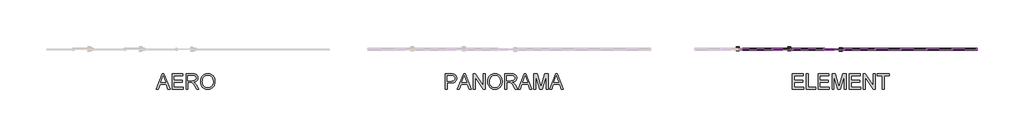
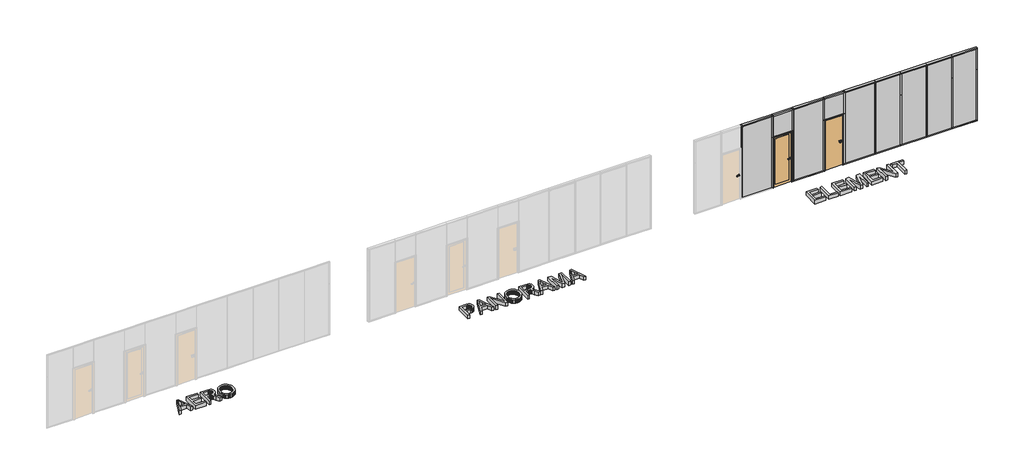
# One storey, part 2 of 2: 36 members, 9 plates, 8 doors, 3 proxies.
"""IFC4 building model written with IfcOpenShell, lengths in millimetres."""

from ifc_helpers import new_model, si_unit, origin, origin_with_axes, place, context, project, spatial, polyline, outline, extrude, transform, mapped, element, save
from components import door_a4a6ccb6, door_728d9884, door_7f16d04f, door_dc1365b6, door_b20d62d0, door_389a7516, member_28485871, member_4891f22e, member_7874e84f, member_a57b794a, member_06365ca1, member_a9953260, member_5adf5f2c, member_b6bbf1a9, member_b6e094f6, member_01304ddf, member_dbbfbf54, member_4cfa1914, member_b2391415, member_acb8eb19, member_e80122f3, plate_595f0704, plate_90d12585, plate_0eca42e6, plate_acc71f32, plate_f79da63e

model = new_model("IFC4")

# Units and contexts
model_context = context("Model", 3, world=origin())
ifc_project = project(units=[si_unit("LENGTHUNIT", "METRE", prefix="MILLI")], contexts=[model_context])

# Site, building, storey
site = spatial("IfcSite", under=ifc_project)
building = spatial("IfcBuilding", under=site)
storey = spatial("IfcBuildingStorey", under=building, Name="Půdorys 1.NP", Elevation=0.0)

# Proxies
placement = place(None, origin())
element("IfcBuildingElementProxy", 1, Name="600 mm Arial", ObjectType="600 mm Arial", at=placement, inside=storey, context=model_context, shape_type="SweptSolid", body=[
    extrude(outline(polyline([(-14943.8745258, 2502.2813048), (-14708.0572181, 3093.0505355), (-14645.1726028, 3093.0505355), (-14409.3552951, 2502.2813048), (-14487.3841412, 2502.2813048), (-14555.028372, 2686.8966894), (-14798.3456797, 2686.8966894), (-14865.8456797, 2502.2813048), (-14943.8745258, 2502.2813048)]), holes=[polyline([(-14771.2302951, 2760.7428432), (-14581.9995258, 2760.7428432), (-14635.2206797, 2905.9832278), (-14676.6149105, 3019.2043817), (-14713.3937566, 2918.6755355), (-14771.2302951, 2760.7428432)])]), origin_with_axes(), (0.0, 0.0, 1.0), 150.0),
    extrude(outline(polyline([(-14330.4610643, 2502.2813048), (-14330.4610643, 3093.0505355), (-13905.8456797, 3093.0505355), (-13905.8456797, 3019.2043817), (-14256.6149105, 3019.2043817), (-14256.6149105, 2843.8197663), (-13924.3072181, 2843.8197663), (-13924.3072181, 2769.9736125), (-14256.6149105, 2769.9736125), (-14256.6149105, 2576.1274586), (-13896.6149105, 2576.1274586), (-13896.6149105, 2502.2813048), (-14330.4610643, 2502.2813048)])), origin_with_axes(), (0.0, 0.0, 1.0), 150.0),
    extrude(outline(polyline([(-13785.8456797, 2502.2813048), (-13785.8456797, 3093.0505355), (-13531.278372, 3093.0505355), (-13462.8589008, 3089.0661605), (-13413.0812566, 3077.1130355), (-13393.871521, 3067.6118336), (-13376.6990451, 3055.0457278), (-13361.5638287, 3039.4147182), (-13348.465872, 3020.7188048), (-13337.8964609, 2999.9630956), (-13330.3468816, 2978.152699), (-13324.3072181, 2931.3678432), (-13326.8087206, 2901.0252951), (-13334.3132278, 2873.1707278), (-13346.8207398, 2847.8041413), (-13364.3312566, 2824.9255355), (-13387.0701388, 2805.2650788), (-13415.262747, 2789.5529394), (-13448.9090811, 2777.7891173), (-13488.0091412, 2769.9736125), (-13463.6701989, 2754.0721701), (-13446.0379874, 2738.387074), (-13386.1822181, 2662.3774586), (-13287.6726028, 2502.2813048), (-13373.4899105, 2502.2813048), (-13450.3649105, 2624.7332278), (-13505.8937566, 2705.7909201), (-13526.5367855, 2729.4267375), (-13544.9081797, 2744.0841894), (-13580.028372, 2758.1466894), (-13622.8649105, 2760.7428432), (-13711.9995258, 2760.7428432), (-13711.9995258, 2502.2813048), (-13785.8456797, 2502.2813048)]), holes=[polyline([(-13711.9995258, 2834.5889971), (-13546.7110643, 2834.5889971), (-13499.2411124, 2837.2031798), (-13462.4081797, 2845.0457278), (-13434.6798143, 2858.6394778), (-13414.5235643, 2878.5072663), (-13402.2459201, 2902.5397182), (-13398.153372, 2928.6274586), (-13400.1049946, 2947.512675), (-13405.9598624, 2964.6490932), (-13415.7179754, 2980.0367134), (-13429.3793335, 2993.6755355), (-13447.2594417, 3004.8444057), (-13469.6738047, 3012.8221701), (-13496.6224225, 3017.6088288), (-13528.1052951, 3019.2043817), (-13711.9995258, 3019.2043817), (-13711.9995258, 2834.5889971)])]), origin_with_axes(), (0.0, 0.0, 1.0), 150.0),
    extrude(outline(polyline([(-13222.7687566, 2789.8774586), (-13217.8468816, 2859.1713288), (-13203.0812566, 2920.5144778), (-13178.4718816, 2973.9069057), (-13144.0187566, 3019.3486125), (-13101.7861845, 3055.6316653), (-13053.8384681, 3081.5481317), (-13000.1756076, 3097.0980115), (-12940.7976028, 3102.2813048), (-12901.0530114, 3099.8474105), (-12863.309622, 3092.5457278), (-12827.5674345, 3080.3762567), (-12793.8264489, 3063.3389971), (-12763.0331797, 3041.9477711), (-12736.1341412, 3016.7164009), (-12713.1293335, 2987.6448865), (-12694.0187566, 2954.7332278), (-12679.0007278, 2918.7296221), (-12668.2735643, 2880.3822663), (-12661.8372662, 2839.6911605), (-12659.6918335, 2796.6563048), (-12661.9499465, 2753.0535403), (-12668.7242855, 2711.8125548), (-12680.0148504, 2672.933348), (-12695.8216412, 2636.4159201), (-12715.7705595, 2603.2248144), (-12739.4875066, 2574.324574), (-12766.9724826, 2549.715199), (-12798.2254874, 2529.3966894), (-12832.0160523, 2513.4952471), (-12867.1137085, 2502.137074), (-12903.5184561, 2495.3221701), (-12941.2302951, 2493.0505355), (-12981.668997, 2495.5610524), (-13019.9081797, 2503.0926028), (-13055.9478431, 2515.645187), (-13089.7879874, 2533.2188048), (-13120.5451989, 2555.1328673), (-13147.3360643, 2580.7067855), (-13170.1605835, 2609.9405596), (-13189.0187566, 2642.8341894), (-13203.7843816, 2678.067062), (-13214.3312566, 2714.3185644), (-13220.6593816, 2751.5886966), (-13222.7687566, 2789.8774586)]), holes=[polyline([(-13148.9226028, 2789.1563048), (-13145.2311965, 2740.198973), (-13134.1569778, 2696.7404394), (-13115.6999465, 2658.7807038), (-13089.8601028, 2626.3197663), (-13058.4493456, 2600.3221701), (-13023.2795739, 2581.7524586), (-12984.3507879, 2570.6106317), (-12941.6629874, 2566.8966894), (-12898.2450186, 2570.6466894), (-12858.856497, 2581.8966894), (-12823.4974225, 2600.6466894), (-12792.1677951, 2626.8966894), (-12766.5172542, 2660.042723), (-12748.1954393, 2699.480824), (-12737.2023504, 2745.2109923), (-12733.5379874, 2797.2332278), (-12735.106497, 2831.0283), (-12739.8120258, 2862.605824), (-12747.6545739, 2891.9658), (-12758.6341412, 2919.1082278), (-12772.6290331, 2943.6770379), (-12789.5175547, 2965.3161605), (-12809.2997061, 2984.0255956), (-12831.9754874, 2999.8053432), (-12856.8417734, 3012.3308841), (-12883.1954393, 3021.277699), (-12911.036485, 3026.6457879), (-12940.3649105, 3028.4351509), (-12981.5698383, 3024.9871341), (-13019.8000066, 3014.6430836), (-13055.0554153, 2997.4029995), (-13087.3360643, 2973.2668817), (-13114.2801749, 2941.0718697), (-13133.5259681, 2899.6551028), (-13145.0734441, 2849.0165812), (-13148.9226028, 2789.1563048)])]), origin_with_axes(), (0.0, 0.0, 1.0), 150.0),
])
element("IfcBuildingElementProxy", 2, Name="600 mm Arial", ObjectType="600 mm Arial", at=placement, inside=storey, context=model_context, shape_type="SweptSolid", body=[
    extrude(outline(polyline([(-3707.1347177, 2502.2813048), (-3707.1347177, 3093.0505355), (-3488.19241, 3093.0505355), (-3437.2068331, 3091.6442855), (-3399.9231792, 3087.4255355), (-3360.5662081, 3076.9147182), (-3328.1683715, 3059.8053432), (-3302.0806311, 3035.3221701), (-3281.6539485, 3002.6899586), (-3268.4568331, 2964.1983721), (-3264.0577946, 2922.137074), (-3267.028047, 2885.87205), (-3275.9388042, 2852.5096701), (-3290.7900662, 2822.0499346), (-3311.5818331, 2794.4928432), (-3340.1260037, 2771.6502951), (-3378.2344773, 2755.3341894), (-3425.9072537, 2745.5445259), (-3483.1443331, 2742.2813048), (-3633.2885638, 2742.2813048), (-3633.2885638, 2502.2813048), (-3707.1347177, 2502.2813048)]), holes=[polyline([(-3633.2885638, 2816.1274586), (-3478.81741, 2816.1274586), (-3443.3005831, 2817.8221701), (-3413.3366408, 2822.9063048), (-3388.9255831, 2831.3798625), (-3370.06741, 2843.2428432), (-3355.9958956, 2858.1797423), (-3345.9448138, 2875.8750548), (-3339.9141648, 2896.3287807), (-3337.9039485, 2919.5409201), (-3342.645535, 2952.7139971), (-3356.8702946, 2980.6947663), (-3378.8114004, 3001.7524586), (-3406.7020254, 3014.1563048), (-3435.1876023, 3017.9423625), (-3480.5481792, 3019.2043817), (-3633.2885638, 3019.2043817), (-3633.2885638, 2816.1274586)])]), origin_with_axes(), (0.0, 0.0, 1.0), 150.0),
    extrude(outline(polyline([(-3231.31741, 2502.2813048), (-2995.5001023, 3093.0505355), (-2932.6154869, 3093.0505355), (-2696.7981792, 2502.2813048), (-2774.8270254, 2502.2813048), (-2842.4712561, 2686.8966894), (-3085.7885638, 2686.8966894), (-3153.2885638, 2502.2813048), (-3231.31741, 2502.2813048)]), holes=[polyline([(-3058.6731792, 2760.7428432), (-2869.44241, 2760.7428432), (-2922.6635638, 2905.9832278), (-2964.0577946, 3019.2043817), (-3000.8366408, 2918.6755355), (-3058.6731792, 2760.7428432)])]), origin_with_axes(), (0.0, 0.0, 1.0), 150.0),
    extrude(outline(polyline([(-2617.9039485, 2502.2813048), (-2617.9039485, 3093.0505355), (-2538.8654869, 3093.0505355), (-2230.2116408, 2625.0216894), (-2230.2116408, 3093.0505355), (-2156.3654869, 3093.0505355), (-2156.3654869, 2502.2813048), (-2235.4039485, 2502.2813048), (-2544.0577946, 2970.4543817), (-2544.0577946, 2502.2813048), (-2617.9039485, 2502.2813048)])), origin_with_axes(), (0.0, 0.0, 1.0), 150.0),
    extrude(outline(polyline([(-2054.8270254, 2789.8774586), (-2049.9051504, 2859.1713288), (-2035.1395254, 2920.5144778), (-2010.5301504, 2973.9069057), (-1976.0770254, 3019.3486125), (-1933.8444533, 3055.6316653), (-1885.8967369, 3081.5481317), (-1832.2338763, 3097.0980115), (-1772.8558715, 3102.2813048), (-1733.1112802, 3099.8474105), (-1695.3678908, 3092.5457278), (-1659.6257033, 3080.3762567), (-1625.8847177, 3063.3389971), (-1595.0914485, 3041.9477711), (-1568.19241, 3016.7164009), (-1545.1876023, 2987.6448865), (-1526.0770254, 2954.7332278), (-1511.0589965, 2918.7296221), (-1500.3318331, 2880.3822663), (-1493.895535, 2839.6911605), (-1491.7501023, 2796.6563048), (-1494.0082153, 2753.0535403), (-1500.7825542, 2711.8125548), (-1512.0731191, 2672.933348), (-1527.87991, 2636.4159201), (-1547.8288283, 2603.2248144), (-1571.5457754, 2574.324574), (-1599.0307513, 2549.715199), (-1630.2837561, 2529.3966894), (-1664.074321, 2513.4952471), (-1699.1719773, 2502.137074), (-1735.5767249, 2495.3221701), (-1773.2885638, 2493.0505355), (-1813.7272658, 2495.5610524), (-1851.9664485, 2503.0926028), (-1888.0061119, 2515.645187), (-1921.8462561, 2533.2188048), (-1952.6034677, 2555.1328673), (-1979.3943331, 2580.7067855), (-2002.2188523, 2609.9405596), (-2021.0770254, 2642.8341894), (-2035.8426504, 2678.067062), (-2046.3895254, 2714.3185644), (-2052.7176504, 2751.5886966), (-2054.8270254, 2789.8774586)]), holes=[polyline([(-1980.9808715, 2789.1563048), (-1977.2894653, 2740.198973), (-1966.2152465, 2696.7404394), (-1947.7582153, 2658.7807038), (-1921.9183715, 2626.3197663), (-1890.5076143, 2600.3221701), (-1855.3378427, 2581.7524586), (-1816.4090566, 2570.6106317), (-1773.7212561, 2566.8966894), (-1730.3032874, 2570.6466894), (-1690.9147658, 2581.8966894), (-1655.5556912, 2600.6466894), (-1624.2260638, 2626.8966894), (-1598.575523, 2660.042723), (-1580.2537081, 2699.480824), (-1569.2606191, 2745.2109923), (-1565.5962561, 2797.2332278), (-1567.1647658, 2831.0283), (-1571.8702946, 2862.605824), (-1579.7128427, 2891.9658), (-1590.69241, 2919.1082278), (-1604.6873018, 2943.6770379), (-1621.5758235, 2965.3161605), (-1641.3579749, 2984.0255956), (-1664.0337561, 2999.8053432), (-1688.9000422, 3012.3308841), (-1715.2537081, 3021.277699), (-1743.0947537, 3026.6457879), (-1772.4231792, 3028.4351509), (-1813.6281071, 3024.9871341), (-1851.8582754, 3014.6430836), (-1887.113684, 2997.4029995), (-1919.3943331, 2973.2668817), (-1946.3384436, 2941.0718697), (-1965.5842369, 2899.6551028), (-1977.1317129, 2849.0165812), (-1980.9808715, 2789.1563048)])]), origin_with_axes(), (0.0, 0.0, 1.0), 150.0),
    extrude(outline(polyline([(-1390.2116408, 2502.2813048), (-1390.2116408, 3093.0505355), (-1135.6443331, 3093.0505355), (-1067.2248619, 3089.0661605), (-1017.4472177, 3077.1130355), (-998.2374821, 3067.6118336), (-981.0650061, 3055.0457278), (-965.9297898, 3039.4147182), (-952.8318331, 3020.7188048), (-942.262422, 2999.9630956), (-934.7128427, 2978.152699), (-928.6731792, 2931.3678432), (-931.1746816, 2901.0252951), (-938.6791888, 2873.1707278), (-951.1867009, 2847.8041413), (-968.6972177, 2824.9255355), (-991.4360999, 2805.2650788), (-1019.6287081, 2789.5529394), (-1053.2750422, 2777.7891173), (-1092.3751023, 2769.9736125), (-1068.03616, 2754.0721701), (-1050.4039485, 2738.387074), (-990.5481792, 2662.3774586), (-892.0385638, 2502.2813048), (-977.8558715, 2502.2813048), (-1054.7308715, 2624.7332278), (-1110.2597177, 2705.7909201), (-1130.9027465, 2729.4267375), (-1149.2741408, 2744.0841894), (-1184.3943331, 2758.1466894), (-1227.2308715, 2760.7428432), (-1316.3654869, 2760.7428432), (-1316.3654869, 2502.2813048), (-1390.2116408, 2502.2813048)]), holes=[polyline([(-1316.3654869, 2834.5889971), (-1151.0770254, 2834.5889971), (-1103.6070735, 2837.2031798), (-1066.7741408, 2845.0457278), (-1039.0457754, 2858.6394778), (-1018.8895254, 2878.5072663), (-1006.6118811, 2902.5397182), (-1002.5193331, 2928.6274586), (-1004.4709557, 2947.512675), (-1010.3258235, 2964.6490932), (-1020.0839364, 2980.0367134), (-1033.7452946, 2993.6755355), (-1051.6254028, 3004.8444057), (-1074.0397658, 3012.8221701), (-1100.9883835, 3017.6088288), (-1132.4712561, 3019.2043817), (-1316.3654869, 3019.2043817), (-1316.3654869, 2834.5889971)])]), origin_with_axes(), (0.0, 0.0, 1.0), 150.0),
    extrude(outline(polyline([(-868.2404869, 2502.2813048), (-632.4231792, 3093.0505355), (-569.5385638, 3093.0505355), (-333.7212561, 2502.2813048), (-411.7501023, 2502.2813048), (-479.3943331, 2686.8966894), (-722.7116408, 2686.8966894), (-790.2116408, 2502.2813048), (-868.2404869, 2502.2813048)]), holes=[polyline([(-695.5962561, 2760.7428432), (-506.3654869, 2760.7428432), (-559.5866408, 2905.9832278), (-600.9808715, 3019.2043817), (-637.7597177, 2918.6755355), (-695.5962561, 2760.7428432)])]), origin_with_axes(), (0.0, 0.0, 1.0), 150.0),
    extrude(outline(polyline([(-254.8270254, 2502.2813048), (-254.8270254, 3093.0505355), (-127.7597177, 3093.0505355), (-6.8943331, 2676.6563048), (17.4806669, 2589.6851509), (43.8748977, 2683.8678432), (162.7210515, 3093.0505355), (289.7883592, 3093.0505355), (289.7883592, 2502.2813048), (215.9422054, 2502.2813048), (215.9422054, 3019.2043817), (67.5287439, 2502.2813048), (-32.56741, 2502.2813048), (-180.9808715, 3019.2043817), (-180.9808715, 2502.2813048), (-254.8270254, 2502.2813048)])), origin_with_axes(), (0.0, 0.0, 1.0), 150.0),
    extrude(outline(polyline([(350.2210515, 2502.2813048), (586.0383592, 3093.0505355), (648.9229746, 3093.0505355), (884.7402823, 2502.2813048), (806.7114362, 2502.2813048), (739.0672054, 2686.8966894), (495.7498977, 2686.8966894), (428.2498977, 2502.2813048), (350.2210515, 2502.2813048)]), holes=[polyline([(522.8652823, 2760.7428432), (712.0960515, 2760.7428432), (658.8748977, 2905.9832278), (617.4806669, 3019.2043817), (580.7018208, 2918.6755355), (522.8652823, 2760.7428432)])]), origin_with_axes(), (0.0, 0.0, 1.0), 150.0),
])
element("IfcBuildingElementProxy", 3, Name="600 mm Arial", ObjectType="600 mm Arial", at=placement, inside=storey, context=model_context, shape_type="SweptSolid", body=[
    extrude(outline(polyline([(9792.8652823, 2502.2813048), (9792.8652823, 3093.0505355), (10217.4806669, 3093.0505355), (10217.4806669, 3019.2043817), (9866.7114362, 3019.2043817), (9866.7114362, 2843.8197663), (10199.0191285, 2843.8197663), (10199.0191285, 2769.9736125), (9866.7114362, 2769.9736125), (9866.7114362, 2576.1274586), (10226.7114362, 2576.1274586), (10226.7114362, 2502.2813048), (9792.8652823, 2502.2813048)])), origin_with_axes(), (0.0, 0.0, 1.0), 150.0),
    extrude(outline(polyline([(10337.4806669, 2502.2813048), (10337.4806669, 3093.0505355), (10411.3268208, 3093.0505355), (10411.3268208, 2576.1274586), (10706.7114362, 2576.1274586), (10706.7114362, 2502.2813048), (10337.4806669, 2502.2813048)])), origin_with_axes(), (0.0, 0.0, 1.0), 150.0),
    extrude(outline(polyline([(10789.7883592, 2502.2813048), (10789.7883592, 3093.0505355), (11214.4037439, 3093.0505355), (11214.4037439, 3019.2043817), (10863.6345131, 3019.2043817), (10863.6345131, 2843.8197663), (11195.9422054, 2843.8197663), (11195.9422054, 2769.9736125), (10863.6345131, 2769.9736125), (10863.6345131, 2576.1274586), (11223.6345131, 2576.1274586), (11223.6345131, 2502.2813048), (10789.7883592, 2502.2813048)])), origin_with_axes(), (0.0, 0.0, 1.0), 150.0),
    extrude(outline(polyline([(11334.4037439, 2502.2813048), (11334.4037439, 3093.0505355), (11461.4710515, 3093.0505355), (11582.3364362, 2676.6563048), (11606.7114362, 2589.6851509), (11633.1056669, 2683.8678432), (11751.9518208, 3093.0505355), (11879.0191285, 3093.0505355), (11879.0191285, 2502.2813048), (11805.1729746, 2502.2813048), (11805.1729746, 3019.2043817), (11656.7595131, 2502.2813048), (11556.6633592, 2502.2813048), (11408.2498977, 3019.2043817), (11408.2498977, 2502.2813048), (11334.4037439, 2502.2813048)])), origin_with_axes(), (0.0, 0.0, 1.0), 150.0),
    extrude(outline(polyline([(12008.2498977, 2502.2813048), (12008.2498977, 3093.0505355), (12432.8652823, 3093.0505355), (12432.8652823, 3019.2043817), (12082.0960515, 3019.2043817), (12082.0960515, 2843.8197663), (12414.4037439, 2843.8197663), (12414.4037439, 2769.9736125), (12082.0960515, 2769.9736125), (12082.0960515, 2576.1274586), (12442.0960515, 2576.1274586), (12442.0960515, 2502.2813048), (12008.2498977, 2502.2813048)])), origin_with_axes(), (0.0, 0.0, 1.0), 150.0),
    extrude(outline(polyline([(12552.8652823, 2502.2813048), (12552.8652823, 3093.0505355), (12631.9037439, 3093.0505355), (12940.55759, 2625.0216894), (12940.55759, 3093.0505355), (13014.4037439, 3093.0505355), (13014.4037439, 2502.2813048), (12935.3652823, 2502.2813048), (12626.7114362, 2970.4543817), (12626.7114362, 2502.2813048), (12552.8652823, 2502.2813048)])), origin_with_axes(), (0.0, 0.0, 1.0), 150.0),
    extrude(outline(polyline([(13291.3268208, 2502.2813048), (13291.3268208, 3019.2043817), (13097.4806669, 3019.2043817), (13097.4806669, 3093.0505355), (13559.0191285, 3093.0505355), (13559.0191285, 3019.2043817), (13365.1729746, 3019.2043817), (13365.1729746, 2502.2813048), (13291.3268208, 2502.2813048)])), origin_with_axes(), (0.0, 0.0, 1.0), 150.0),
])

# Doors
door_shape = door_a4a6ccb6(model_context)
element("IfcDoor", 4, ObjectType="VERTI - kování M&T : KVADRA", at=placement, inside=storey, context=model_context, shape_type="MappedRepresentation", body=[
    mapped(door_shape, transform((11723.7245634, 4051.6285423, 1000.0), x_axis=(1.0, 0.0, 0.0), y_axis=(0.0, 0.0, -1.0), z_axis=(0.0, 1.0, 0.0))),
])
door_2_shape = door_728d9884(model_context)
element("IfcDoor", 5, ObjectType="VERTI - kování M&T : KVADRA", at=placement, inside=storey, context=model_context, shape_type="MappedRepresentation", body=[
    mapped(door_2_shape, transform((11723.7245634, 4043.6285423, 1000.0), x_axis=(1.0, 0.0, 0.0), y_axis=(0.0, 0.0, 1.0), z_axis=(0.0, -1.0, 0.0))),
])
door_3_shape = door_7f16d04f(model_context)
element("IfcDoor", 6, ObjectType="VERTI - kování M&T : KVADRA", at=placement, inside=storey, context=model_context, shape_type="MappedRepresentation", body=[
    mapped(door_3_shape, transform((7723.7245634, 4083.6285423, 1000.0), x_axis=(1.0, 0.0, 0.0), y_axis=(0.0, 0.0, -1.0), z_axis=(0.0, 1.0, 0.0))),
])
element("IfcDoor", 7, ObjectType="VERTI - kování M&T : KVADRA", at=placement, inside=storey, context=model_context, shape_type="MappedRepresentation", body=[
    mapped(door_3_shape, transform((9723.7245634, 4083.6285423, 1000.0), x_axis=(1.0, 0.0, 0.0), y_axis=(0.0, 0.0, -1.0), z_axis=(0.0, 1.0, 0.0))),
])
door_4_shape = door_dc1365b6(model_context)
element("IfcDoor", 8, ObjectType="VERTI - kování M&T : KVADRA", at=placement, inside=storey, context=model_context, shape_type="MappedRepresentation", body=[
    mapped(door_4_shape, transform((7723.7245634, 4051.6285423, 1000.0), x_axis=(1.0, 0.0, 0.0), y_axis=(0.0, 0.0, 1.0), z_axis=(0.0, -1.0, 0.0))),
])
element("IfcDoor", 9, ObjectType="VERTI - kování M&T : KVADRA", at=placement, inside=storey, context=model_context, shape_type="MappedRepresentation", body=[
    mapped(door_4_shape, transform((9723.7245634, 4051.6285423, 1000.0), x_axis=(1.0, 0.0, 0.0), y_axis=(0.0, 0.0, 1.0), z_axis=(0.0, -1.0, 0.0))),
])
door_5_shape = door_b20d62d0(model_context)
element("IfcDoor", 10, ObjectType="VERTI ELEMENT - dveřní panel : ELEMENT - dveřní panel", at=placement, inside=storey, context=model_context, shape_type="MappedRepresentation", body=[
    mapped(door_5_shape, transform((9412.2245634, 4046.1285423, 0.0), x_axis=(1.0, 0.0, 0.0), y_axis=(0.0, 1.0, 0.0), z_axis=(0.0, 0.0, 1.0))),
])
door_6_shape = door_389a7516(model_context)
element("IfcDoor", 11, ObjectType="VERTI ELEMENT - dveřní panel : ELEMENT - dveřní panel", at=placement, inside=storey, context=model_context, shape_type="MappedRepresentation", body=[
    mapped(door_6_shape, transform((11412.2245634, 4046.1285423, 0.0), x_axis=(1.0, 0.0, 0.0), y_axis=(0.0, 1.0, 0.0), z_axis=(0.0, 0.0, 1.0))),
])

# Members
member_shape = member_28485871(model_context)
element("IfcMember", 12, ObjectType="Obdélníková příčel : VERTI ELEMENT - vertikální", at=placement, inside=storey, context=model_context, shape_type="MappedRepresentation", body=[
    mapped(member_shape, transform((16989.7245634, 4046.1285423, 3000.0), x_axis=(0.0, 0.0, 1.0), y_axis=(0.0, -1.0, 0.0), z_axis=(1.0, 0.0, 0.0))),
])
member_2_shape = member_4891f22e(model_context)
element("IfcMember", 13, ObjectType="Obdélníková příčel : VERTI ELEMENT - vertikální", at=placement, inside=storey, context=model_context, shape_type="MappedRepresentation", body=[
    mapped(member_2_shape, transform((14012.2245634, 4046.1285423, 3000.0), x_axis=(0.0, 0.0, 1.0), y_axis=(0.0, -1.0, 0.0), z_axis=(1.0, 0.0, 0.0))),
])
element("IfcMember", 14, ObjectType="Obdélníková příčel : VERTI ELEMENT - vertikální", at=placement, inside=storey, context=model_context, shape_type="MappedRepresentation", body=[
    mapped(member_2_shape, transform((15012.2245634, 4046.1285423, 3000.0), x_axis=(0.0, 0.0, 1.0), y_axis=(0.0, -1.0, 0.0), z_axis=(1.0, 0.0, 0.0))),
])
element("IfcMember", 15, ObjectType="Obdélníková příčel : VERTI ELEMENT - vertikální", at=placement, inside=storey, context=model_context, shape_type="MappedRepresentation", body=[
    mapped(member_2_shape, transform((16012.2245634, 4046.1285423, 3000.0), x_axis=(0.0, 0.0, 1.0), y_axis=(0.0, -1.0, 0.0), z_axis=(1.0, 0.0, 0.0))),
])
member_3_shape = member_7874e84f(model_context)
element("IfcMember", 16, ObjectType="Obdélníková příčel : VERTI ELEMENT - vertikální", at=placement, inside=storey, context=model_context, shape_type="MappedRepresentation", body=[
    mapped(member_3_shape, transform((13012.2245634, 4046.1285423, 0.0), x_axis=(0.0, 0.0, -1.0), y_axis=(0.0, -1.0, 0.0), z_axis=(-1.0, 0.0, 0.0))),
])
element("IfcMember", 17, ObjectType="Obdélníková příčel : VERTI ELEMENT - vertikální", at=placement, inside=storey, context=model_context, shape_type="MappedRepresentation", body=[
    mapped(member_3_shape, transform((14012.2245634, 4046.1285423, 0.0), x_axis=(0.0, 0.0, -1.0), y_axis=(0.0, -1.0, 0.0), z_axis=(-1.0, 0.0, 0.0))),
])
element("IfcMember", 18, ObjectType="Obdélníková příčel : VERTI ELEMENT - vertikální", at=placement, inside=storey, context=model_context, shape_type="MappedRepresentation", body=[
    mapped(member_3_shape, transform((15012.2245634, 4046.1285423, 0.0), x_axis=(0.0, 0.0, -1.0), y_axis=(0.0, -1.0, 0.0), z_axis=(-1.0, 0.0, 0.0))),
])
member_4_shape = member_a57b794a(model_context)
element("IfcMember", 19, ObjectType="Obdélníková příčel : VERTI ELEMENT - vertikální", at=placement, inside=storey, context=model_context, shape_type="MappedRepresentation", body=[
    mapped(member_4_shape, transform((16012.2245634, 4046.1285423, 0.0), x_axis=(0.0, 0.0, -1.0), y_axis=(0.0, -1.0, 0.0), z_axis=(-1.0, 0.0, 0.0))),
])
member_5_shape = member_06365ca1(model_context)
element("IfcMember", 20, ObjectType="Obdélníková příčel : VERTI ELEMENT - vertikální", at=placement, inside=storey, context=model_context, shape_type="MappedRepresentation", body=[
    mapped(member_5_shape, transform((9789.7245634, 4046.1285423, 0.0), x_axis=(0.0, 0.0, -1.0), y_axis=(0.0, -1.0, 0.0), z_axis=(-1.0, 0.0, 0.0))),
])
member_6_shape = member_a9953260(model_context)
element("IfcMember", 21, ObjectType="Obdélníková příčel : VERTI ELEMENT - vertikální", at=placement, inside=storey, context=model_context, shape_type="MappedRepresentation", body=[
    mapped(member_6_shape, transform((11789.7245634, 4046.1285423, 0.0), x_axis=(0.0, 0.0, -1.0), y_axis=(0.0, -1.0, 0.0), z_axis=(-1.0, 0.0, 0.0))),
])
member_7_shape = member_5adf5f2c(model_context)
element("IfcMember", 22, ObjectType="Obdélníková příčel : VERTI ELEMENT - vertikální", at=placement, inside=storey, context=model_context, shape_type="MappedRepresentation", body=[
    mapped(member_7_shape, transform((9012.2245634, 4046.1285423, 45.0), x_axis=(1.0, 0.0, 0.0), y_axis=(0.0, -1.0, 0.0), z_axis=(0.0, 0.0, -1.0))),
])
element("IfcMember", 23, ObjectType="Obdélníková příčel : VERTI ELEMENT - vertikální", at=placement, inside=storey, context=model_context, shape_type="MappedRepresentation", body=[
    mapped(member_7_shape, transform((9812.2245634, 4046.1285423, 45.0), x_axis=(1.0, 0.0, 0.0), y_axis=(0.0, -1.0, 0.0), z_axis=(0.0, 0.0, -1.0))),
])
element("IfcMember", 24, ObjectType="Obdélníková příčel : VERTI ELEMENT - vertikální", at=placement, inside=storey, context=model_context, shape_type="MappedRepresentation", body=[
    mapped(member_7_shape, transform((11012.2245634, 4046.1285423, 45.0), x_axis=(1.0, 0.0, 0.0), y_axis=(0.0, -1.0, 0.0), z_axis=(0.0, 0.0, -1.0))),
])
element("IfcMember", 25, ObjectType="Obdélníková příčel : VERTI ELEMENT - vertikální", at=placement, inside=storey, context=model_context, shape_type="MappedRepresentation", body=[
    mapped(member_7_shape, transform((11812.2245634, 4046.1285423, 45.0), x_axis=(1.0, 0.0, 0.0), y_axis=(0.0, -1.0, 0.0), z_axis=(0.0, 0.0, -1.0))),
])
element("IfcMember", 26, ObjectType="Obdélníková příčel : VERTI ELEMENT - vertikální", at=placement, inside=storey, context=model_context, shape_type="MappedRepresentation", body=[
    mapped(member_7_shape, transform((13012.2245634, 4046.1285423, 45.0), x_axis=(1.0, 0.0, 0.0), y_axis=(0.0, -1.0, 0.0), z_axis=(0.0, 0.0, -1.0))),
])
element("IfcMember", 27, ObjectType="Obdélníková příčel : VERTI ELEMENT - vertikální", at=placement, inside=storey, context=model_context, shape_type="MappedRepresentation", body=[
    mapped(member_7_shape, transform((14012.2245634, 4046.1285423, 45.0), x_axis=(1.0, 0.0, 0.0), y_axis=(0.0, -1.0, 0.0), z_axis=(0.0, 0.0, -1.0))),
])
element("IfcMember", 28, ObjectType="Obdélníková příčel : VERTI ELEMENT - vertikální", at=placement, inside=storey, context=model_context, shape_type="MappedRepresentation", body=[
    mapped(member_7_shape, transform((15012.2245634, 4046.1285423, 45.0), x_axis=(1.0, 0.0, 0.0), y_axis=(0.0, -1.0, 0.0), z_axis=(0.0, 0.0, -1.0))),
])
element("IfcMember", 29, ObjectType="Obdélníková příčel : VERTI ELEMENT - vertikální", at=placement, inside=storey, context=model_context, shape_type="MappedRepresentation", body=[
    mapped(member_7_shape, transform((16012.2245634, 4046.1285423, 45.0), x_axis=(1.0, 0.0, 0.0), y_axis=(0.0, -1.0, 0.0), z_axis=(0.0, 0.0, -1.0))),
])
member_8_shape = member_b6bbf1a9(model_context)
element("IfcMember", 30, ObjectType="Obdélníková příčel : VERTI ELEMENT - horizontální", at=placement, inside=storey, context=model_context, shape_type="MappedRepresentation", body=[
    mapped(member_8_shape, transform((9789.7245634, 4046.1285423, 2100.0), x_axis=(0.0, 0.0, 1.0), y_axis=(0.0, -1.0, 0.0), z_axis=(1.0, 0.0, 0.0))),
])
element("IfcMember", 31, ObjectType="Obdélníková příčel : VERTI ELEMENT - horizontální", at=placement, inside=storey, context=model_context, shape_type="MappedRepresentation", body=[
    mapped(member_8_shape, transform((11789.7245634, 4046.1285423, 2100.0), x_axis=(0.0, 0.0, 1.0), y_axis=(0.0, -1.0, 0.0), z_axis=(1.0, 0.0, 0.0))),
])
member_9_shape = member_b6e094f6(model_context)
element("IfcMember", 32, ObjectType="Obdélníková příčel : VERTI ELEMENT - vertikální", at=placement, inside=storey, context=model_context, shape_type="MappedRepresentation", body=[
    mapped(member_9_shape, transform((13012.2245634, 4046.1285423, 2100.0), x_axis=(1.0, 0.0, 0.0), y_axis=(0.0, -1.0, 0.0), z_axis=(0.0, 0.0, -1.0))),
])
element("IfcMember", 33, ObjectType="Obdélníková příčel : VERTI ELEMENT - vertikální", at=placement, inside=storey, context=model_context, shape_type="MappedRepresentation", body=[
    mapped(member_9_shape, transform((14012.2245634, 4046.1285423, 2100.0), x_axis=(1.0, 0.0, 0.0), y_axis=(0.0, -1.0, 0.0), z_axis=(0.0, 0.0, -1.0))),
])
element("IfcMember", 34, ObjectType="Obdélníková příčel : VERTI ELEMENT - vertikální", at=placement, inside=storey, context=model_context, shape_type="MappedRepresentation", body=[
    mapped(member_9_shape, transform((15012.2245634, 4046.1285423, 2100.0), x_axis=(1.0, 0.0, 0.0), y_axis=(0.0, -1.0, 0.0), z_axis=(0.0, 0.0, -1.0))),
])
element("IfcMember", 35, ObjectType="Obdélníková příčel : VERTI ELEMENT - vertikální", at=placement, inside=storey, context=model_context, shape_type="MappedRepresentation", body=[
    mapped(member_9_shape, transform((16012.2245634, 4046.1285423, 2100.0), x_axis=(1.0, 0.0, 0.0), y_axis=(0.0, -1.0, 0.0), z_axis=(0.0, 0.0, -1.0))),
])
member_10_shape = member_01304ddf(model_context)
element("IfcMember", 36, ObjectType="Obdélníková příčel : VERTI ELEMENT - vertikální", at=placement, inside=storey, context=model_context, shape_type="MappedRepresentation", body=[
    mapped(member_10_shape, transform((16989.7245634, 4046.1285423, 45.0), x_axis=(1.0, 0.0, 0.0), y_axis=(0.0, -1.0, 0.0), z_axis=(0.0, 0.0, -1.0))),
])
member_11_shape = member_dbbfbf54(model_context)
element("IfcMember", 37, ObjectType="Obdélníková příčel : VERTI ELEMENT - vertikální", at=placement, inside=storey, context=model_context, shape_type="MappedRepresentation", body=[
    mapped(member_11_shape, transform((16989.7245634, 4046.1285423, 2100.0), x_axis=(1.0, 0.0, 0.0), y_axis=(0.0, -1.0, 0.0), z_axis=(0.0, 0.0, -1.0))),
])
member_12_shape = member_4cfa1914(model_context)
element("IfcMember", 38, ObjectType="Obdélníková příčel : VERTI ELEMENT - vertikální", at=placement, inside=storey, context=model_context, shape_type="MappedRepresentation", body=[
    mapped(member_12_shape, transform((9789.7245634, 4046.1285423, 3000.0), x_axis=(0.0, 0.0, 1.0), y_axis=(0.0, -1.0, 0.0), z_axis=(1.0, 0.0, 0.0))),
])
element("IfcMember", 39, ObjectType="Obdélníková příčel : VERTI ELEMENT - vertikální", at=placement, inside=storey, context=model_context, shape_type="MappedRepresentation", body=[
    mapped(member_12_shape, transform((11789.7245634, 4046.1285423, 3000.0), x_axis=(0.0, 0.0, 1.0), y_axis=(0.0, -1.0, 0.0), z_axis=(1.0, 0.0, 0.0))),
])
member_13_shape = member_b2391415(model_context)
element("IfcMember", 40, ObjectType="Obdélníková příčel : VERTI ELEMENT - vertikální", at=placement, inside=storey, context=model_context, shape_type="MappedRepresentation", body=[
    mapped(member_13_shape, transform((8989.7245634, 4046.1285423, 3000.0), x_axis=(0.0, 0.0, 1.0), y_axis=(0.0, -1.0, 0.0), z_axis=(1.0, 0.0, 0.0))),
])
element("IfcMember", 41, ObjectType="Obdélníková příčel : VERTI ELEMENT - vertikální", at=placement, inside=storey, context=model_context, shape_type="MappedRepresentation", body=[
    mapped(member_13_shape, transform((10989.7245634, 4046.1285423, 3000.0), x_axis=(0.0, 0.0, 1.0), y_axis=(0.0, -1.0, 0.0), z_axis=(1.0, 0.0, 0.0))),
])
member_14_shape = member_acb8eb19(model_context)
element("IfcMember", 42, ObjectType="Obdélníková příčel : VERTI ELEMENT - vertikální", at=placement, inside=storey, context=model_context, shape_type="MappedRepresentation", body=[
    mapped(member_14_shape, transform((13012.2245634, 4046.1285423, 3000.0), x_axis=(0.0, 0.0, 1.0), y_axis=(0.0, -1.0, 0.0), z_axis=(1.0, 0.0, 0.0))),
])
member_15_shape = member_e80122f3(model_context)
element("IfcMember", 43, ObjectType="Obdélníková příčel : VERTI ELEMENT - vertikální", at=placement, inside=storey, context=model_context, shape_type="MappedRepresentation", body=[
    mapped(member_15_shape, transform((7812.2245634, 4046.1285423, 2100.0), x_axis=(1.0, 0.0, 0.0), y_axis=(0.0, -1.0, 0.0), z_axis=(0.0, 0.0, -1.0))),
])
element("IfcMember", 44, ObjectType="Obdélníková příčel : VERTI ELEMENT - vertikální", at=placement, inside=storey, context=model_context, shape_type="MappedRepresentation", body=[
    mapped(member_15_shape, transform((9012.2245634, 4046.1285423, 2100.0), x_axis=(1.0, 0.0, 0.0), y_axis=(0.0, -1.0, 0.0), z_axis=(0.0, 0.0, -1.0))),
])
element("IfcMember", 45, ObjectType="Obdélníková příčel : VERTI ELEMENT - vertikální", at=placement, inside=storey, context=model_context, shape_type="MappedRepresentation", body=[
    mapped(member_15_shape, transform((9812.2245634, 4046.1285423, 2100.0), x_axis=(1.0, 0.0, 0.0), y_axis=(0.0, -1.0, 0.0), z_axis=(0.0, 0.0, -1.0))),
])
element("IfcMember", 46, ObjectType="Obdélníková příčel : VERTI ELEMENT - vertikální", at=placement, inside=storey, context=model_context, shape_type="MappedRepresentation", body=[
    mapped(member_15_shape, transform((11012.2245634, 4046.1285423, 2100.0), x_axis=(1.0, 0.0, 0.0), y_axis=(0.0, -1.0, 0.0), z_axis=(0.0, 0.0, -1.0))),
])
element("IfcMember", 47, ObjectType="Obdélníková příčel : VERTI ELEMENT - vertikální", at=placement, inside=storey, context=model_context, shape_type="MappedRepresentation", body=[
    mapped(member_15_shape, transform((11812.2245634, 4046.1285423, 2100.0), x_axis=(1.0, 0.0, 0.0), y_axis=(0.0, -1.0, 0.0), z_axis=(0.0, 0.0, -1.0))),
])

# Plates
plate_shape = plate_595f0704(model_context)
element("IfcPlate", 48, ObjectType="VERTI ELEMENT - prosklená výplň : Prosklená výplň", at=placement, inside=storey, context=model_context, shape_type="MappedRepresentation", body=[
    mapped(plate_shape, transform((14512.2245634, 4046.1285423, 45.0), x_axis=(1.0, 0.0, 0.0), y_axis=(0.0, 1.0, 0.0), z_axis=(0.0, 0.0, 1.0))),
])
plate_2_shape = plate_90d12585(model_context)
element("IfcPlate", 49, ObjectType="VERTI ELEMENT - prosklená výplň : Prosklená výplň", at=placement, inside=storey, context=model_context, shape_type="MappedRepresentation", body=[
    mapped(plate_2_shape, transform((8412.2245634, 4046.1285423, 45.0), x_axis=(1.0, 0.0, 0.0), y_axis=(0.0, 1.0, 0.0), z_axis=(0.0, 0.0, 1.0))),
])
element("IfcPlate", 50, ObjectType="VERTI ELEMENT - prosklená výplň : Prosklená výplň", at=placement, inside=storey, context=model_context, shape_type="MappedRepresentation", body=[
    mapped(plate_2_shape, transform((10412.2245634, 4046.1285423, 45.0), x_axis=(1.0, 0.0, 0.0), y_axis=(0.0, 1.0, 0.0), z_axis=(0.0, 0.0, 1.0))),
])
element("IfcPlate", 51, ObjectType="VERTI ELEMENT - prosklená výplň : Prosklená výplň", at=placement, inside=storey, context=model_context, shape_type="MappedRepresentation", body=[
    mapped(plate_2_shape, transform((12412.2245634, 4046.1285423, 45.0), x_axis=(1.0, 0.0, 0.0), y_axis=(0.0, 1.0, 0.0), z_axis=(0.0, 0.0, 1.0))),
])
plate_3_shape = plate_0eca42e6(model_context)
element("IfcPlate", 52, ObjectType="VERTI ELEMENT - plná výpň : Dýhovaný povrch", at=placement, inside=storey, context=model_context, shape_type="MappedRepresentation", body=[
    mapped(plate_3_shape, transform((13512.2245634, 4046.1285423, 45.0), x_axis=(1.0, 0.0, 0.0), y_axis=(0.0, 1.0, 0.0), z_axis=(0.0, 0.0, 1.0))),
])
element("IfcPlate", 53, ObjectType="VERTI ELEMENT - plná výpň : Laminovaný povrch", at=placement, inside=storey, context=model_context, shape_type="MappedRepresentation", body=[
    mapped(plate_3_shape, transform((15512.2245634, 4046.1285423, 45.0), x_axis=(1.0, 0.0, 0.0), y_axis=(0.0, 1.0, 0.0), z_axis=(0.0, 0.0, 1.0))),
])
plate_4_shape = plate_acc71f32(model_context)
element("IfcPlate", 54, ObjectType="VERTI ELEMENT - prosklená výplň : Prosklená výplň", at=placement, inside=storey, context=model_context, shape_type="MappedRepresentation", body=[
    mapped(plate_4_shape, transform((16489.7245634, 4046.1285423, 45.0), x_axis=(1.0, 0.0, 0.0), y_axis=(0.0, 1.0, 0.0), z_axis=(0.0, 0.0, 1.0))),
])
plate_5_shape = plate_f79da63e(model_context)
element("IfcPlate", 55, ObjectType="VERTI ELEMENT - prosklená výplň : Prosklená výplň", at=placement, inside=storey, context=model_context, shape_type="MappedRepresentation", body=[
    mapped(plate_5_shape, transform((9412.2245634, 4046.1285423, 2112.5), x_axis=(1.0, 0.0, 0.0), y_axis=(0.0, 1.0, 0.0), z_axis=(0.0, 0.0, 1.0))),
])
element("IfcPlate", 56, ObjectType="VERTI ELEMENT - prosklená výplň : Prosklená výplň", at=placement, inside=storey, context=model_context, shape_type="MappedRepresentation", body=[
    mapped(plate_5_shape, transform((11412.2245634, 4046.1285423, 2112.5), x_axis=(1.0, 0.0, 0.0), y_axis=(0.0, 1.0, 0.0), z_axis=(0.0, 0.0, 1.0))),
])

save(model, "model.ifc")
